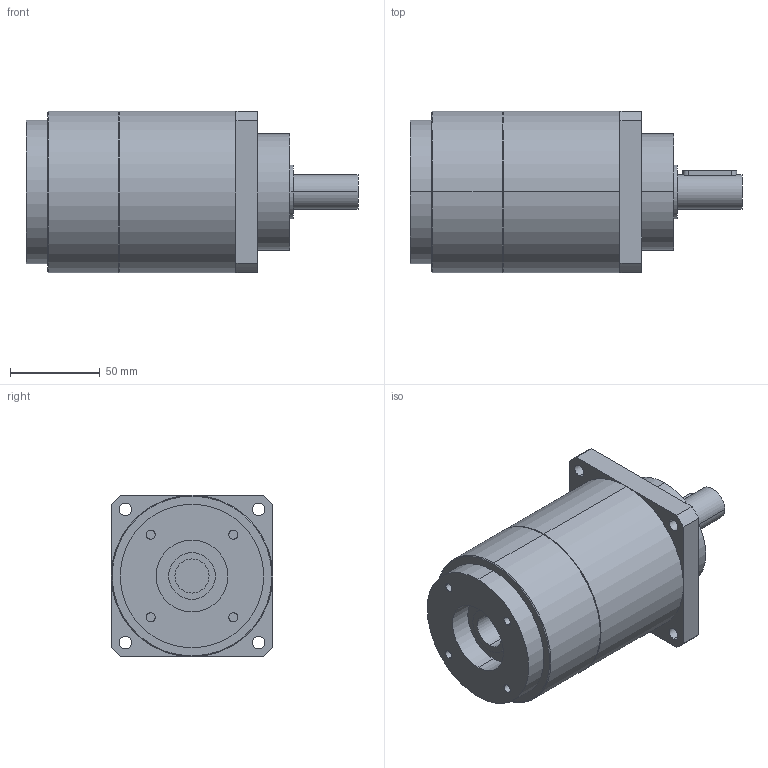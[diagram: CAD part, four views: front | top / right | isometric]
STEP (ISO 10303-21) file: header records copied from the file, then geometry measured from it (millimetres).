
FILE_DESCRIPTION(('CoCreate Modeling STEP Export'),'2;1');
FILE_NAME('GPT90_ig-9-12-16-20-25-28-35-40-50-70-100_19_B5T_19_P26.stp','2015-02-04T11:33:14',(''),(''),'CoCreate Modeling STEP processor for AP214 (Solid Model)','CoCreate Modeling 16.00C 25-Feb-2009 (C) Parametric Technology GmbH','');
FILE_SCHEMA(('AUTOMOTIVE_DESIGN { 1 0 10303 214 1 1 1 1 }'));
Length unit declared in the file: millimetre
Products named in the file (2): GPT90_ig-9-12-16-20-25-28-35-40-50-70-100_19_B5T_19_P26
Assembly tree (1 placements, depth 2):
  GPT90_ig-9-12-16-20-25-28-35-40-50-70-100_19_B5T_19_P26
    GPT90_ig-9-12-16-20-25-28-35-40-50-70-100_19_B5T_19_P26
Bounding box: 185 x 90 x 90 mm (x, y, z)
Volume: 869934.9 mm3; surface area: 64932 mm2
Topology: 1 solids, 1 shells, 72 faces, 182 edges, 125 vertices
Faces by surface type: cylinder 42, plane 26, cone 4
Entity records: 2313 total; most frequent: CARTESIAN_POINT 692, ORIENTED_EDGE 364, DIRECTION 272, EDGE_CURVE 182, VERTEX_POINT 125, AXIS2_PLACEMENT_3D 102, EDGE_LOOP 93, FACE_OUTER_BOUND 72
